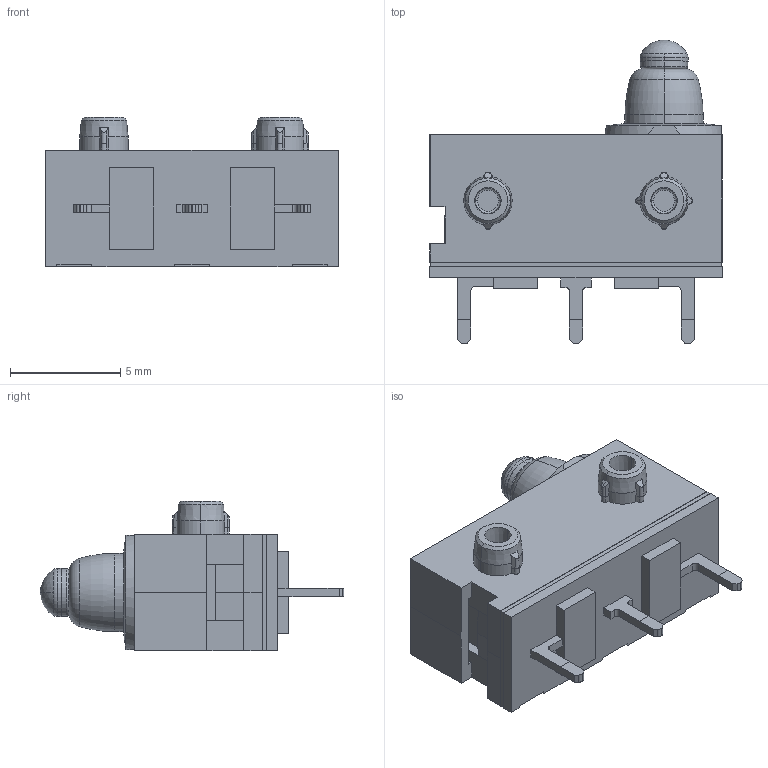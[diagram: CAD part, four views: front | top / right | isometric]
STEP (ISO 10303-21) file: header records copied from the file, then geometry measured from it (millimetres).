
FILE_DESCRIPTION (( 'STEP AP214' ), '1' );
FILE_NAME ('SPVQ640202.STEP', '2018-06-13T10:08:50', ( 'user' ), ( '' ), 'SwSTEP 2.0', 'SolidWorks 2017', '' );
FILE_SCHEMA (( 'AUTOMOTIVE_DESIGN' ));
Length unit declared in the file: millimetre
Products named in the file (1): SPVQ640202
Bounding box: 13.3 x 13.8 x 6.8 mm (x, y, z)
Volume: 493.3 mm3; surface area: 532.1 mm2
Topology: 1 solids, 4 shells, 250 faces, 647 edges, 417 vertices
Faces by surface type: plane 152, cone 46, cylinder 36, torus 14, sphere 2
Entity records: 8361 total; most frequent: CARTESIAN_POINT 1560, ORIENTED_EDGE 1294, DIRECTION 1253, EDGE_CURVE 647, VECTOR 429, LINE 429, VERTEX_POINT 417, AXIS2_PLACEMENT_3D 412
